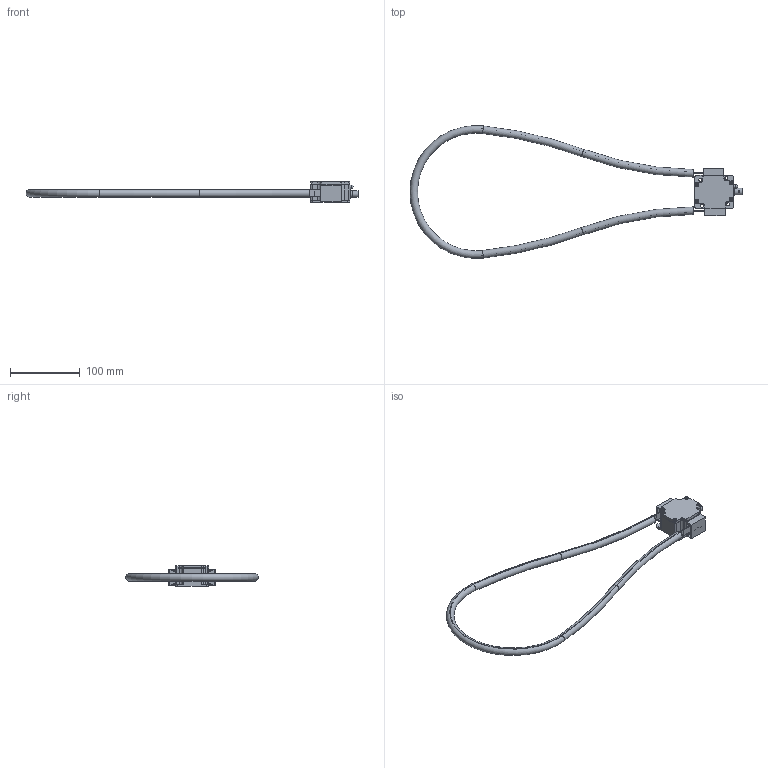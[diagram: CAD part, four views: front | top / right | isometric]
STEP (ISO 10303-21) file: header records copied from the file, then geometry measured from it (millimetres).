
FILE_DESCRIPTION(/* description */ (''),/* implementation_level */ '2;1');
FILE_NAME(/* name */ 'G:\Bibliotheken\CAD_Daten_MERP\301438\301438_3B Antenne BNC_Vertrieb_2026-05-18-075921.stp',/* time_stamp */ '2026-05-18T07:59:23+02:00',/* author */ ('JSch'),/* organization */ (''),/* preprocessor_version */ 'ST-DEVELOPER v18.1',/* originating_system */ 'Autodesk Inventor 2021',/* authorisation */ '');
FILE_SCHEMA (('AUTOMOTIVE_DESIGN { 1 0 10303 214 3 1 1 }'));
Length unit declared in the file: millimetre
Products named in the file (1): 301438_3B Antenne BNC_Vertrieb
Bounding box: 476.95 x 190.44 x 30 mm (x, y, z)
Volume: 91207.3 mm3; surface area: 107592 mm2
Topology: 12 solids, 19 shells, 907 faces, 2429 edges, 1617 vertices
Faces by surface type: plane 320, bspline 312, cylinder 248, torus 14, cone 12, sphere 1
Full cylindrical faces by diameter (mm): 2 x2, 2.4 x1, 2.5 x4, 2.7 x4, 4 x4, 4.3 x4, 4.5 x5, 5 x6, 6.5 x6, 8.3 x1, 9.5 x1, 12.5 x1
Entity records: 33305 total; most frequent: CARTESIAN_POINT 11953, ORIENTED_EDGE 4848, DIRECTION 3032, EDGE_CURVE 2424, VERTEX_POINT 1617, LINE 1244, VECTOR 1244, EDGE_LOOP 999
